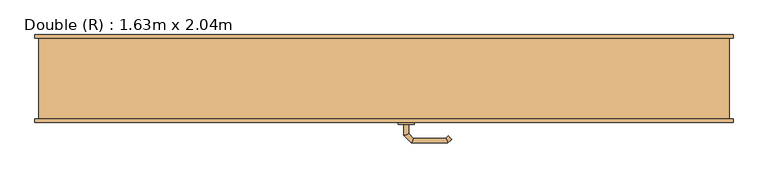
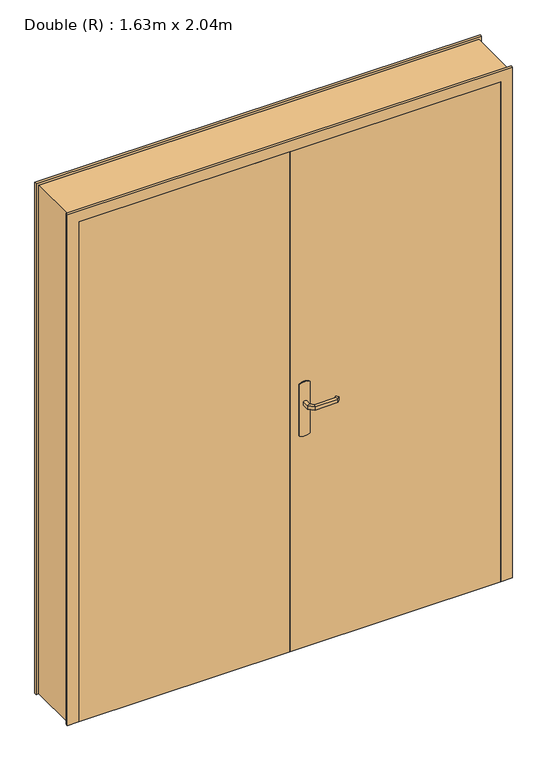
"""IFC4 building model written with IfcOpenShell, lengths in millimetres: door geometry, Double (R) : 1.63m x 2.04m."""

from ifc_helpers import new_model, si_unit, point, frame, frame_2d, origin, origin_with_axes, place, context, project, spatial, polyline, circle_curve, ellipse_curve, trimmed, segment, composite_curve, outline, extrude, faceted_brep, source, transform, mapped, element, save
from ifc_brep_helpers import plane_surface, cylinder_surface, advanced_brep


def double_r_1_63m_x_2_04m_b2d207b5(model_context):
    return source(origin(), model_context, "Body", "SolidModel", [
        advanced_brep(
        [(61.0, -63.0, 993.0), (61.0, -63.0, 1007.0), (49.0, -63.0, 1007.0), (49.0, -63.0, 993.0), (61.0, -40.5147955, 993.0), (61.0, -40.5147955, 1007.0), (49.0, -35.5442327, 1007.0), (49.0, -35.5442327, 993.0), (72.4852814, -29.0295141, 993.0), (72.4852814, -29.0295141, 1007.0), (67.5147186, -17.0295141, 1007.0), (67.5147186, -17.0295141, 993.0), (152.5605023, -29.0295141, 993.0), (152.5605023, -29.0295141, 1007.0), (157.531065, -17.0295141, 1007.0), (157.531065, -17.0295141, 993.0), (157.8742108, -34.3432226, 993.0), (166.3594922, -25.8579412, 993.0), (166.3594922, -25.8579412, 1007.0), (157.8742108, -34.3432226, 1007.0)],
        [
            (0, 1),
            (1, 2, circle_curve(frame((55.0, -63.0, 986.9542278), z_axis=(0.0, -1.0, 0.0), x_axis=(-1.0, 0.0, 0.0)), 20.9244589)),
            (2, 3),
            (3, 0, circle_curve(frame((55.0, -63.0, 1013.0457722), z_axis=(0.0, -1.0, 0.0), x_axis=(-1.0, 0.0, 0.0)), 20.9244589)),
            (0, 4),
            (4, 5),
            (5, 1),
            (5, 6, ellipse_curve(frame((55.0, -38.0295141, 986.9542278), z_axis=(-0.38268343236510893, -0.9238795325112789, 0.0), x_axis=(0.9238795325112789, -0.3826834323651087, 0.0)), 22.6484711, 20.9244589)),
            (6, 2),
            (6, 7),
            (7, 3),
            (7, 4, ellipse_curve(frame((55.0, -38.0295141, 1013.0457722), z_axis=(-0.38268343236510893, -0.9238795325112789, 0.0), x_axis=(0.9238795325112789, -0.3826834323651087, 0.0)), 22.6484711, 20.9244589)),
            (4, 8),
            (8, 9),
            (9, 5),
            (9, 10, ellipse_curve(frame((70.0, -23.0295141, 986.9542278), z_axis=(-0.9238795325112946, -0.38268343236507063, 0.0), x_axis=(0.3826834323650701, -0.9238795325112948, 0.0)), 22.6484711, 20.9244589)),
            (10, 6),
            (10, 11),
            (11, 7),
            (11, 8, ellipse_curve(frame((70.0, -23.0295141, 1013.0457722), z_axis=(-0.9238795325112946, -0.38268343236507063, 0.0), x_axis=(0.3826834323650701, -0.9238795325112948, 0.0)), 22.6484711, 20.9244589)),
            (8, 12),
            (12, 13),
            (13, 9),
            (13, 14, ellipse_curve(frame((155.0457837, -23.0295141, 986.9542278), z_axis=(-0.9238795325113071, 0.38268343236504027, 0.0), x_axis=(-0.38268343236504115, -0.9238795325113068, 0.0)), 22.6484711, 20.9244589)),
            (14, 10),
            (14, 15),
            (15, 11),
            (15, 12, ellipse_curve(frame((155.0457837, -23.0295141, 1013.0457722), z_axis=(-0.9238795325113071, 0.38268343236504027, 0.0), x_axis=(-0.38268343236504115, -0.9238795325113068, 0.0)), 22.6484711, 20.9244589)),
            (16, 17, circle_curve(frame((162.1168515, -30.1005819, 1013.0457722), z_axis=(0.7071067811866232, -0.7071067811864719, 0.0), x_axis=(0.7071067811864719, 0.7071067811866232, 0.0)), 20.9244589)),
            (17, 18),
            (18, 19, circle_curve(frame((162.1168515, -30.1005819, 986.9542278), z_axis=(0.7071067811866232, -0.7071067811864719, 0.0), x_axis=(0.7071067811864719, 0.7071067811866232, 0.0)), 20.9244589)),
            (19, 16),
            (12, 16),
            (19, 13),
            (18, 14),
            (17, 15),
        ],
        [
            plane_surface(frame((45.7804555, -63.0, 1000.0), z_axis=(0.0, -1.0, 0.0), x_axis=(0.0, 0.0, 1.0))),
            plane_surface(frame((61.0, -63.0, 993.0), z_axis=(1.0, 0.0, 0.0), x_axis=(0.0, 1.0, 0.0))),
            cylinder_surface(frame((55.0, -63.0, 986.9542278), z_axis=(0.0, -1.0, 0.0), x_axis=(-1.0, 0.0, 0.0)), 20.9244589),
            plane_surface(frame((49.0, -63.0, 1007.0), z_axis=(-1.0, 0.0, 0.0), x_axis=(0.0, 1.0, 0.0))),
            cylinder_surface(frame((55.0, -63.0, 1013.0457722), z_axis=(0.0, -1.0, 0.0), x_axis=(-1.0, 0.0, 0.0)), 20.9244589),
            plane_surface(frame((61.0, -40.5147955, 993.0), z_axis=(0.707106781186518, -0.707106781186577, 0.0), x_axis=(0.707106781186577, 0.707106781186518, 0.0))),
            cylinder_surface(frame((55.0, -38.0295141, 986.9542278), z_axis=(-0.7071067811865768, -0.7071067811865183, 0.0), x_axis=(-0.7071067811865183, 0.7071067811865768, 0.0)), 20.9244589),
            plane_surface(frame((49.0, -35.5442327, 1007.0), z_axis=(-0.7071067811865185, 0.7071067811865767, 0.0), x_axis=(0.7071067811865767, 0.7071067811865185, 0.0))),
            cylinder_surface(frame((55.0, -38.0295141, 1013.0457722), z_axis=(-0.7071067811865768, -0.7071067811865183, 0.0), x_axis=(-0.7071067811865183, 0.7071067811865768, 0.0)), 20.9244589),
            plane_surface(frame((72.4852814, -29.0295141, 993.0), z_axis=(0.0, -1.0, 0.0), x_axis=(1.0, 0.0, 0.0))),
            cylinder_surface(frame((70.0, -23.0295141, 986.9542278), z_axis=(-1.0, 0.0, 0.0), x_axis=(0.0, 1.0, 0.0)), 20.9244589),
            plane_surface(frame((67.5147186, -17.0295141, 1007.0), z_axis=(0.0, 1.0, 0.0), x_axis=(1.0, 0.0, 0.0))),
            cylinder_surface(frame((70.0, -23.0295141, 1013.0457722), z_axis=(-1.0, 0.0, 0.0), x_axis=(0.0, 1.0, 0.0)), 20.9244589),
            plane_surface(frame((162.1168515, -30.1005819, 990.7804555), z_axis=(0.7071067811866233, -0.7071067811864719, 0.0), x_axis=(0.7071067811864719, 0.7071067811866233, 0.0))),
            plane_surface(frame((152.5605023, -29.0295141, 993.0), z_axis=(-0.707106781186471, -0.7071067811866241, 0.0), x_axis=(0.7071067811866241, -0.707106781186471, 0.0))),
            cylinder_surface(frame((155.0457837, -23.0295141, 986.9542278), z_axis=(-0.7071067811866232, 0.7071067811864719, 0.0), x_axis=(0.7071067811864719, 0.7071067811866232, 0.0)), 20.9244589),
            plane_surface(frame((157.531065, -17.0295141, 1007.0), z_axis=(0.7071067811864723, 0.7071067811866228, 0.0), x_axis=(0.7071067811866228, -0.7071067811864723, 0.0))),
            cylinder_surface(frame((155.0457837, -23.0295141, 1013.0457722), z_axis=(-0.7071067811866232, 0.7071067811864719, 0.0), x_axis=(0.7071067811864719, 0.7071067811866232, 0.0)), 20.9244589),
        ],
        [
            (0, [[1, 2, 3, 4]]),
            (1, [[-1, 5, 6, 7]]),
            (2, [[-2, -7, 8, 9]]),
            (3, [[-3, -9, 10, 11]]),
            (4, [[-4, -11, 12, -5]]),
            (5, [[-6, 13, 14, 15]]),
            (6, [[-8, -15, 16, 17]]),
            (7, [[-10, -17, 18, 19]]),
            (8, [[-12, -19, 20, -13]]),
            (9, [[-14, 21, 22, 23]]),
            (10, [[-16, -23, 24, 25]]),
            (11, [[-18, -25, 26, 27]]),
            (12, [[-20, -27, 28, -21]]),
            (13, [[29, 30, 31, 32]]),
            (14, [[-22, 33, -32, 34]]),
            (15, [[-24, -34, -31, 35]]),
            (16, [[-26, -35, -30, 36]]),
            (17, [[-28, -36, -29, -33]]),
        ],
    ),
        advanced_brep(
        [(49.0, -113.0, 1007.0), (61.0, -113.0, 1007.0), (61.0, -113.0, 993.0), (49.0, -113.0, 993.0), (49.0, -140.6509507, 1007.0), (61.0, -135.680388, 1007.0), (61.0, -135.680388, 993.0), (49.0, -140.6509507, 993.0), (67.37721, -159.0281607, 1007.0), (72.3477727, -147.0281607, 1007.0), (72.3477727, -147.0281607, 993.0), (67.37721, -159.0281607, 993.0), (157.503922, -159.0281607, 1007.0), (152.5333592, -147.0281607, 1007.0), (152.5333592, -147.0281607, 993.0), (157.503922, -159.0281607, 993.0), (166.3323491, -150.1997336, 1007.0), (166.3323491, -150.1997336, 993.0), (157.8470677, -141.7144522, 993.0), (157.8470677, -141.7144522, 1007.0)],
        [
            (0, 1, circle_curve(frame((55.0, -113.0, 986.9542278), z_axis=(0.0, 1.0, 0.0), x_axis=(1.0, 0.0, 0.0)), 20.9244589)),
            (1, 2),
            (2, 3, circle_curve(frame((55.0, -113.0, 1013.0457722), z_axis=(0.0, 1.0, 0.0), x_axis=(1.0, 0.0, 0.0)), 20.9244589)),
            (3, 0),
            (0, 4),
            (4, 5, ellipse_curve(frame((55.0, -138.1656693, 986.9542278), z_axis=(-0.3826834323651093, 0.9238795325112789, 0.0), x_axis=(0.9238795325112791, 0.38268343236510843, 0.0)), 22.6484711, 20.9244589)),
            (5, 1),
            (5, 6),
            (6, 2),
            (6, 7, ellipse_curve(frame((55.0, -138.1656693, 1013.0457722), z_axis=(-0.3826834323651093, 0.9238795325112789, 0.0), x_axis=(0.9238795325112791, 0.38268343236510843, 0.0)), 22.6484711, 20.9244589)),
            (7, 3),
            (7, 4),
            (4, 8),
            (8, 9, ellipse_curve(frame((69.8624914, -153.0281607, 986.9542278), z_axis=(-0.9238795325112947, 0.38268343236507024, 0.0), x_axis=(0.3826834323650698, 0.9238795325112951, 0.0)), 22.6484711, 20.9244589)),
            (9, 5),
            (9, 10),
            (10, 6),
            (10, 11, ellipse_curve(frame((69.8624914, -153.0281607, 1013.0457722), z_axis=(-0.9238795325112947, 0.38268343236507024, 0.0), x_axis=(0.3826834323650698, 0.9238795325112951, 0.0)), 22.6484711, 20.9244589)),
            (11, 7),
            (11, 8),
            (8, 12),
            (12, 13, ellipse_curve(frame((155.0186406, -153.0281607, 986.9542278), z_axis=(-0.9238795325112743, -0.3826834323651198, 0.0), x_axis=(-0.38268343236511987, 0.9238795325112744, 0.0)), 22.6484711, 20.9244589)),
            (13, 9),
            (13, 14),
            (14, 10),
            (14, 15, ellipse_curve(frame((155.0186406, -153.0281607, 1013.0457722), z_axis=(-0.9238795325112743, -0.3826834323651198, 0.0), x_axis=(-0.38268343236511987, 0.9238795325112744, 0.0)), 22.6484711, 20.9244589)),
            (15, 11),
            (15, 12),
            (16, 17),
            (17, 18, circle_curve(frame((162.0897084, -145.9570929, 1013.0457722), z_axis=(0.7071067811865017, 0.7071067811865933, 0.0), x_axis=(-0.7071067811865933, 0.7071067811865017, 0.0)), 20.9244589)),
            (18, 19),
            (19, 16, circle_curve(frame((162.0897084, -145.9570929, 986.9542278), z_axis=(0.7071067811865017, 0.7071067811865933, 0.0), x_axis=(-0.7071067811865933, 0.7071067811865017, 0.0)), 20.9244589)),
            (12, 16),
            (19, 13),
            (18, 14),
            (17, 15),
        ],
        [
            plane_surface(frame((45.7804555, -113.0, 1000.0), z_axis=(0.0, 1.0, 0.0), x_axis=(0.0, 0.0, -1.0))),
            cylinder_surface(frame((55.0, -113.0, 986.9542278), z_axis=(0.0, 1.0, 0.0), x_axis=(1.0, 0.0, 0.0)), 20.9244589),
            plane_surface(frame((61.0, -113.0, 1007.0), z_axis=(1.0, 0.0, 0.0), x_axis=(0.0, -1.0, 0.0))),
            cylinder_surface(frame((55.0, -113.0, 1013.0457722), z_axis=(0.0, 1.0, 0.0), x_axis=(1.0, 0.0, 0.0)), 20.9244589),
            plane_surface(frame((49.0, -113.0, 993.0), z_axis=(-1.0, 0.0, 0.0), x_axis=(0.0, -1.0, 0.0))),
            cylinder_surface(frame((55.0, -138.1656693, 986.9542278), z_axis=(-0.7071067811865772, 0.7071067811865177, 0.0), x_axis=(0.7071067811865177, 0.7071067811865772, 0.0)), 20.9244589),
            plane_surface(frame((61.0, -135.680388, 1007.0), z_axis=(0.7071067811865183, 0.7071067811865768, 0.0), x_axis=(0.7071067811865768, -0.7071067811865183, 0.0))),
            cylinder_surface(frame((55.0, -138.1656693, 1013.0457722), z_axis=(-0.7071067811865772, 0.7071067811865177, 0.0), x_axis=(0.7071067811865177, 0.7071067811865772, 0.0)), 20.9244589),
            plane_surface(frame((49.0, -140.6509507, 993.0), z_axis=(-0.707106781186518, -0.707106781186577, 0.0), x_axis=(0.707106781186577, -0.707106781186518, 0.0))),
            cylinder_surface(frame((69.8624914, -153.0281607, 986.9542278), z_axis=(-1.0, 0.0, 0.0), x_axis=(0.0, 1.0, 0.0)), 20.9244589),
            plane_surface(frame((72.3477727, -147.0281607, 1007.0), z_axis=(0.0, 1.0, 0.0), x_axis=(1.0, 0.0, 0.0))),
            cylinder_surface(frame((69.8624914, -153.0281607, 1013.0457722), z_axis=(-1.0, 0.0, 0.0), x_axis=(0.0, 1.0, 0.0)), 20.9244589),
            plane_surface(frame((67.37721, -159.0281607, 993.0), z_axis=(0.0, -1.0, 0.0), x_axis=(1.0, 0.0, 0.0))),
            plane_surface(frame((162.0897084, -145.9570929, 1009.2195445), z_axis=(0.7071067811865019, 0.7071067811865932, 0.0), x_axis=(0.7071067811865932, -0.7071067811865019, 0.0))),
            cylinder_surface(frame((155.0186406, -153.0281607, 986.9542278), z_axis=(-0.7071067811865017, -0.7071067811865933, 0.0), x_axis=(-0.7071067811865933, 0.7071067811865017, 0.0)), 20.9244589),
            plane_surface(frame((152.5333592, -147.0281607, 1007.0), z_axis=(-0.7071067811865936, 0.7071067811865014, 0.0), x_axis=(0.7071067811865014, 0.7071067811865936, 0.0))),
            cylinder_surface(frame((155.0186406, -153.0281607, 1013.0457722), z_axis=(-0.7071067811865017, -0.7071067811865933, 0.0), x_axis=(-0.7071067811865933, 0.7071067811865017, 0.0)), 20.9244589),
            plane_surface(frame((157.503922, -159.0281607, 993.0), z_axis=(0.707106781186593, -0.7071067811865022, 0.0), x_axis=(0.7071067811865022, 0.707106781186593, 0.0))),
        ],
        [
            (0, [[1, 2, 3, 4]]),
            (1, [[-1, 5, 6, 7]]),
            (2, [[-2, -7, 8, 9]]),
            (3, [[-3, -9, 10, 11]]),
            (4, [[-4, -11, 12, -5]]),
            (5, [[-6, 13, 14, 15]]),
            (6, [[-8, -15, 16, 17]]),
            (7, [[-10, -17, 18, 19]]),
            (8, [[-12, -19, 20, -13]]),
            (9, [[-14, 21, 22, 23]]),
            (10, [[-16, -23, 24, 25]]),
            (11, [[-18, -25, 26, 27]]),
            (12, [[-20, -27, 28, -21]]),
            (13, [[29, 30, 31, 32]]),
            (14, [[-22, 33, -32, 34]]),
            (15, [[-24, -34, -31, 35]]),
            (16, [[-26, -35, -30, 36]]),
            (17, [[-28, -36, -29, -33]]),
        ],
    ),
        extrude(outline(composite_curve([segment(trimmed(circle_curve(frame_2d((1045.3589838, 55.0)), 40.0), [point((1080.0, 75.0))], [point((1080.0, 35.0))], False, "CARTESIAN"), True, "CONTINUOUS"), segment(polyline([(1080.0, 35.0), (870.0, 35.0)]), True, "CONTINUOUS"), segment(trimmed(circle_curve(frame_2d((904.6410162, 55.0)), 40.0), [point((870.0, 35.0))], [point((870.0, 75.0))], False, "CARTESIAN"), True, "CONTINUOUS"), segment(polyline([(870.0, 75.0), (1080.0, 75.0)]), True, "CONTINUOUS")], self_intersect=False)), frame((0.0, -68.0, 0.0), z_axis=(0.0, 1.0, 0.0), x_axis=(0.0, 0.0, 1.0)), (0.0, 0.0, 1.0), 5.0),
        extrude(outline(composite_curve([segment(trimmed(circle_curve(frame_2d((904.6410162, 55.0)), 40.0), [point((870.0, 35.0))], [point((870.0, 75.0))], False, "CARTESIAN"), True, "CONTINUOUS"), segment(polyline([(870.0, 75.0), (1080.0, 75.0)]), True, "CONTINUOUS"), segment(trimmed(circle_curve(frame_2d((1045.3589838, 55.0)), 40.0), [point((1080.0, 75.0))], [point((1080.0, 35.0))], False, "CARTESIAN"), True, "CONTINUOUS"), segment(polyline([(1080.0, 35.0), (870.0, 35.0)]), True, "CONTINUOUS")], self_intersect=False)), frame((0.0, -113.0, 0.0), z_axis=(0.0, 1.0, 0.0), x_axis=(0.0, 0.0, 1.0)), (0.0, 0.0, 1.0), 5.0),
        faceted_brep([(-850.0, -100.0, 0.0), (-850.0, 100.0, 0.0), (-860.0, 100.0, 0.0), (-860.0, 108.0, 0.0), (-800.0, 108.0, 0.0), (-800.0, -68.0, 0.0), (-815.0, -68.0, 0.0), (-815.0, -108.0, 0.0), (-860.0, -108.0, 0.0), (-860.0, -100.0, 0.0), (-850.0, -100.0, 2075.0), (-850.0, 100.0, 2075.0), (850.0, 100.0, 2075.0), (850.0, 100.0, 0.0), (860.0, 100.0, 0.0), (860.0, 100.0, 2085.0), (-860.0, 100.0, 2085.0), (-860.0, 108.0, 2085.0), (860.0, 108.0, 2085.0), (860.0, 108.0, 0.0), (800.0, 108.0, 0.0), (800.0, 108.0, 2025.0), (-800.0, 108.0, 2025.0), (-800.0, -68.0, 2025.0), (800.0, -68.0, 2025.0), (800.0, -68.0, 0.0), (815.0, -68.0, 0.0), (815.0, -68.0, 2040.0), (-815.0, -68.0, 2040.0), (-815.0, -108.0, 2040.0), (815.0, -108.0, 2040.0), (815.0, -108.0, 0.0), (860.0, -108.0, 0.0), (860.0, -108.0, 2085.0), (-860.0, -108.0, 2085.0), (-860.0, -100.0, 2085.0), (860.0, -100.0, 2085.0), (860.0, -100.0, 0.0), (850.0, -100.0, 0.0), (850.0, -100.0, 2075.0)], [[[0, 1, 2, 3, 4, 5, 6, 7, 8, 9]], [[1, 0, 10, 11]], [[2, 1, 11, 12, 13, 14, 15, 16]], [[3, 2, 16, 17]], [[4, 3, 17, 18, 19, 20, 21, 22]], [[5, 4, 22, 23]], [[6, 5, 23, 24, 25, 26, 27, 28]], [[7, 6, 28, 29]], [[8, 7, 29, 30, 31, 32, 33, 34]], [[9, 8, 34, 35]], [[0, 9, 35, 36, 37, 38, 39, 10]], [[12, 39, 38, 13]], [[38, 37, 32, 31, 26, 25, 20, 19, 14, 13]], [[18, 15, 14, 19]], [[24, 21, 20, 25]], [[30, 27, 26, 31]], [[36, 33, 32, 37]], [[11, 10, 39, 12]], [[17, 16, 15, 18]], [[23, 22, 21, 24]], [[29, 28, 27, 30]], [[35, 34, 33, 36]]]),
        extrude(outline(polyline([(815.0, -108.0), (0.0, -108.0), (0.0, -68.0), (815.0, -68.0), (815.0, -108.0)])), origin_with_axes(), (0.0, 0.0, 1.0), 2040.0),
        extrude(outline(polyline([(0.0, -108.0), (-815.0, -108.0), (-815.0, -68.0), (0.0, -68.0), (0.0, -108.0)])), origin_with_axes(), (0.0, 0.0, 1.0), 2040.0),
    ])


if __name__ == "__main__":
    model = new_model("IFC4")
    model_context = context("Model", 3, world=origin())
    ifc_project = project(units=[si_unit("LENGTHUNIT", "METRE", prefix="MILLI")], contexts=[model_context])
    site = spatial("IfcSite", under=ifc_project)
    building = spatial("IfcBuilding", under=site)
    placement = place(None, origin())
    double_r_1_63m_x_2_04m_shape = double_r_1_63m_x_2_04m_b2d207b5(model_context)
    element("IfcDoor", 1, ObjectType="Double (R) : 1.63m x 2.04m", at=placement, inside=building, context=model_context, shape_type="MappedRepresentation", body=[
        mapped(double_r_1_63m_x_2_04m_shape, transform((0.0, 0.0, 0.0), x_axis=(1.0, 0.0, 0.0), y_axis=(0.0, 1.0, 0.0), z_axis=(0.0, 0.0, 1.0))),
    ])
    save(model, "model.ifc")
